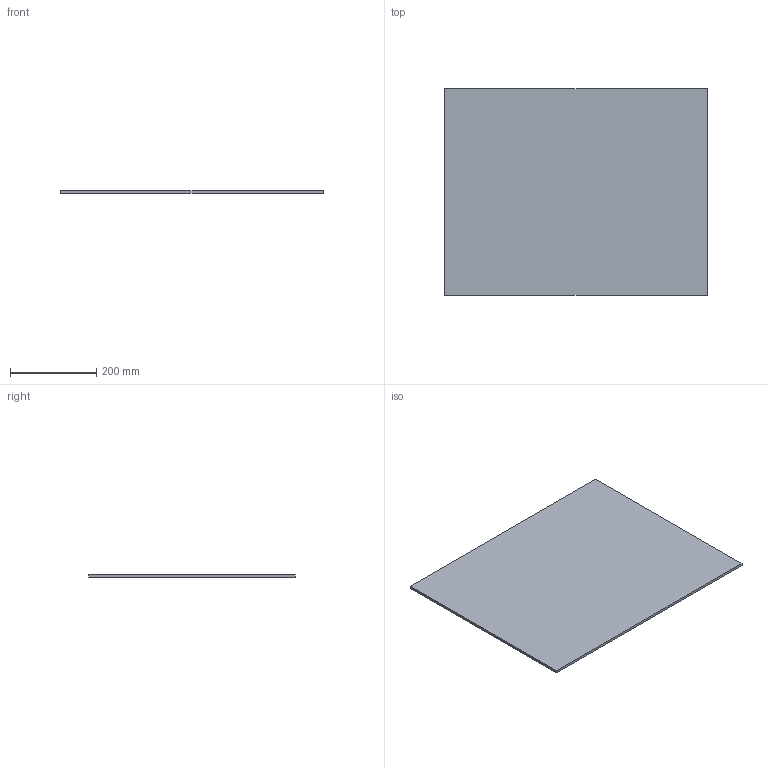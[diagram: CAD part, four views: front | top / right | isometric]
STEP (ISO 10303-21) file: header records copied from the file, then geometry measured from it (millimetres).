
FILE_DESCRIPTION (( 'STEP AP214' ), '1' );
FILE_NAME ('Lochblech_NL500_KAB700_16.step', '2010-10-11T13:38:34', ( 'grass' ), ( '' ), 'SwSTEP 2.0', 'SolidWorks 2010', '' );
FILE_SCHEMA (( 'AUTOMOTIVE_DESIGN' ));
Length unit declared in the file: millimetre
Products named in the file (1): Lochblech_NL500_KAB700_16
Bounding box: 608 x 479 x 6 mm (x, y, z)
Volume: 1747392 mm3; surface area: 595508 mm2
Topology: 1 solids, 1 shells, 6 faces, 12 edges, 8 vertices
Faces by surface type: plane 6
Entity records: 190 total; most frequent: CARTESIAN_POINT 27, DIRECTION 26, ORIENTED_EDGE 24, EDGE_CURVE 12, VECTOR 12, LINE 12, VERTEX_POINT 8, AXIS2_PLACEMENT_3D 7
